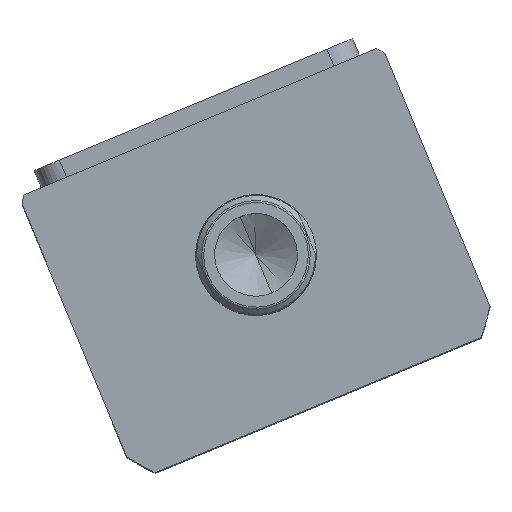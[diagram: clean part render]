
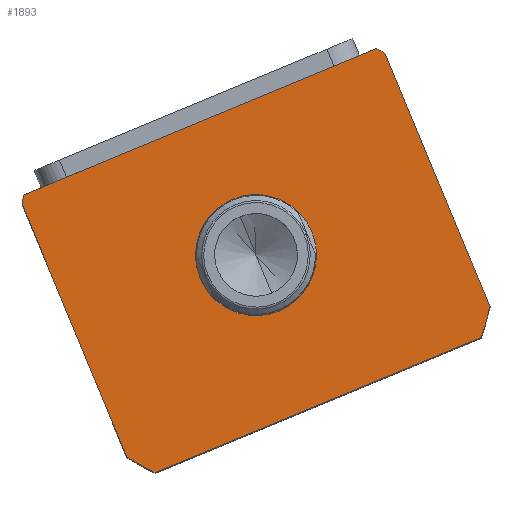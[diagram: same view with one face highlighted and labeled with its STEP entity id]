
A CAD part, top view. The second image highlights one B-rep face of the part: STEP entity #1893.
In plain terms, the highlighted planar face has unit normal (0, 0, 1) as drawn and (0, 0, -1) by its records, which use the part's own axes.
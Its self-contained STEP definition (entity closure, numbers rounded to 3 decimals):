
#499 = VERTEX_POINT ( 'NONE', #7967 ) ;
#603 = DIRECTION ( 'NONE',  ( 1., 0., 0. ) ) ;
#683 = AXIS2_PLACEMENT_3D ( 'NONE', #14336, #17263, #15714 ) ;
#1500 = CARTESIAN_POINT ( 'NONE',  ( 17.5, -59.497, 0. ) ) ;
#1649 = AXIS2_PLACEMENT_3D ( 'NONE', #2562, #2544, #2537 ) ;
#1686 = DIRECTION ( 'NONE',  ( 0., 0., 1. ) ) ;
#1893 = ADVANCED_FACE ( 'NONE', ( #10718, #2923 ), #2868, .F. ) ;
#1951 = EDGE_CURVE ( 'NONE', #8323, #499, #6815, .T. ) ;
#2172 = CARTESIAN_POINT ( 'NONE',  ( -57., -17.497, 0. ) ) ;
#2377 = VECTOR ( 'NONE', #3629, 1000. ) ;
#2537 = DIRECTION ( 'NONE',  ( 1., 0., 0. ) ) ;
#2544 = DIRECTION ( 'NONE',  ( 0., 0., 1. ) ) ;
#2560 = VECTOR ( 'NONE', #9625, 1000. ) ;
#2562 = CARTESIAN_POINT ( 'NONE',  ( 0., 0., 0. ) ) ;
#2822 = ORIENTED_EDGE ( 'NONE', *, *, #7620, .T. ) ;
#2868 = PLANE ( 'NONE',  #1649 ) ;
#2923 = FACE_OUTER_BOUND ( 'NONE', #15902, .T. ) ;
#3629 = DIRECTION ( 'NONE',  ( -1., 0., 0. ) ) ;
#3873 = CIRCLE ( 'NONE', #10742, 69.5 ) ;
#3912 = DIRECTION ( 'NONE',  ( 0., 0., 1. ) ) ;
#3988 = EDGE_CURVE ( 'NONE', #18427, #5149, #10518, .T. ) ;
#4272 = CARTESIAN_POINT ( 'NONE',  ( -17.5, -59.497, 0. ) ) ;
#4432 = LINE ( 'NONE', #15074, #8556 ) ;
#4597 = VERTEX_POINT ( 'NONE', #4272 ) ;
#4624 = ORIENTED_EDGE ( 'NONE', *, *, #17872, .F. ) ;
#5027 = CARTESIAN_POINT ( 'NONE',  ( -55.374, -17.497, 0. ) ) ;
#5052 = ORIENTED_EDGE ( 'NONE', *, *, #1951, .F. ) ;
#5149 = VERTEX_POINT ( 'NONE', #16526 ) ;
#5270 = ORIENTED_EDGE ( 'NONE', *, *, #10160, .F. ) ;
#5404 = CIRCLE ( 'NONE', #15696, 69.5 ) ;
#5702 = VECTOR ( 'NONE', #13511, 1000. ) ;
#6228 = CARTESIAN_POINT ( 'NONE',  ( 55.374, -17.497, 0. ) ) ;
#6685 = CARTESIAN_POINT ( 'NONE',  ( 57., -17.497, 0. ) ) ;
#6815 = CIRCLE ( 'NONE', #683, 69.5 ) ;
#7126 = CARTESIAN_POINT ( 'NONE',  ( 0., -59.497, 0. ) ) ;
#7422 = EDGE_CURVE ( 'NONE', #5149, #11886, #17548, .T. ) ;
#7620 = EDGE_CURVE ( 'NONE', #4597, #7832, #16635, .T. ) ;
#7818 = CARTESIAN_POINT ( 'NONE',  ( -57., -99.262, 0. ) ) ;
#7832 = VERTEX_POINT ( 'NONE', #1500 ) ;
#7967 = CARTESIAN_POINT ( 'NONE',  ( -57., -19.732, 0. ) ) ;
#7986 = VERTEX_POINT ( 'NONE', #9052 ) ;
#8323 = VERTEX_POINT ( 'NONE', #5027 ) ;
#8556 = VECTOR ( 'NONE', #17941, 1000. ) ;
#8596 = DIRECTION ( 'NONE',  ( 1., 0., 0. ) ) ;
#9052 = CARTESIAN_POINT ( 'NONE',  ( -51.198, -106.497, 0. ) ) ;
#9323 = DIRECTION ( 'NONE',  ( 0., 0., 1. ) ) ;
#9395 = DIRECTION ( 'NONE',  ( 0., 0., 1. ) ) ;
#9625 = DIRECTION ( 'NONE',  ( 0., 1., 0. ) ) ;
#10160 = EDGE_CURVE ( 'NONE', #7986, #18427, #16834, .T. ) ;
#10200 = DIRECTION ( 'NONE',  ( 1., 0., 0. ) ) ;
#10315 = VERTEX_POINT ( 'NONE', #6228 ) ;
#10459 = CARTESIAN_POINT ( 'NONE',  ( 0., -59.497, 0. ) ) ;
#10482 = VERTEX_POINT ( 'NONE', #7818 ) ;
#10518 = CIRCLE ( 'NONE', #13026, 69.5 ) ;
#10537 = EDGE_CURVE ( 'NONE', #10482, #7986, #3873, .T. ) ;
#10658 = CARTESIAN_POINT ( 'NONE',  ( 0., -59.497, 0. ) ) ;
#10718 = FACE_BOUND ( 'NONE', #15285, .T. ) ;
#10742 = AXIS2_PLACEMENT_3D ( 'NONE', #17965, #9323, #603 ) ;
#10956 = AXIS2_PLACEMENT_3D ( 'NONE', #12682, #3912, #14132 ) ;
#11044 = ORIENTED_EDGE ( 'NONE', *, *, #7422, .F. ) ;
#11390 = CIRCLE ( 'NONE', #11481, 17.5 ) ;
#11481 = AXIS2_PLACEMENT_3D ( 'NONE', #10459, #1686, #11916 ) ;
#11886 = VERTEX_POINT ( 'NONE', #14538 ) ;
#11916 = DIRECTION ( 'NONE',  ( 1., 0., 0. ) ) ;
#11962 = ORIENTED_EDGE ( 'NONE', *, *, #16751, .F. ) ;
#12046 = CARTESIAN_POINT ( 'NONE',  ( -57., -106.497, 0. ) ) ;
#12682 = CARTESIAN_POINT ( 'NONE',  ( 0., -59.497, 0. ) ) ;
#13026 = AXIS2_PLACEMENT_3D ( 'NONE', #10658, #9395, #10200 ) ;
#13511 = DIRECTION ( 'NONE',  ( 1., 0., 0. ) ) ;
#13559 = EDGE_CURVE ( 'NONE', #11886, #10315, #5404, .T. ) ;
#13825 = EDGE_CURVE ( 'NONE', #7832, #4597, #11390, .T. ) ;
#13983 = ORIENTED_EDGE ( 'NONE', *, *, #3988, .F. ) ;
#14132 = DIRECTION ( 'NONE',  ( 1., 0., 0. ) ) ;
#14336 = CARTESIAN_POINT ( 'NONE',  ( 0., -59.497, 0. ) ) ;
#14538 = CARTESIAN_POINT ( 'NONE',  ( 57., -19.732, 0. ) ) ;
#15074 = CARTESIAN_POINT ( 'NONE',  ( -57., -17.497, 0. ) ) ;
#15285 = EDGE_LOOP ( 'NONE', ( #18472, #2822 ) ) ;
#15549 = ORIENTED_EDGE ( 'NONE', *, *, #13559, .F. ) ;
#15696 = AXIS2_PLACEMENT_3D ( 'NONE', #7126, #17232, #8596 ) ;
#15714 = DIRECTION ( 'NONE',  ( 1., 0., 0. ) ) ;
#15902 = EDGE_LOOP ( 'NONE', ( #15549, #11044, #13983, #5270, #17040, #11962, #5052, #4624 ) ) ;
#16239 = CARTESIAN_POINT ( 'NONE',  ( 51.198, -106.497, 0. ) ) ;
#16526 = CARTESIAN_POINT ( 'NONE',  ( 57., -99.262, 0. ) ) ;
#16635 = CIRCLE ( 'NONE', #10956, 17.5 ) ;
#16751 = EDGE_CURVE ( 'NONE', #499, #10482, #4432, .T. ) ;
#16834 = LINE ( 'NONE', #12046, #5702 ) ;
#17040 = ORIENTED_EDGE ( 'NONE', *, *, #10537, .F. ) ;
#17232 = DIRECTION ( 'NONE',  ( 0., 0., 1. ) ) ;
#17263 = DIRECTION ( 'NONE',  ( 0., 0., 1. ) ) ;
#17548 = LINE ( 'NONE', #6685, #2560 ) ;
#17831 = LINE ( 'NONE', #2172, #2377 ) ;
#17872 = EDGE_CURVE ( 'NONE', #10315, #8323, #17831, .T. ) ;
#17941 = DIRECTION ( 'NONE',  ( 0., -1., 0. ) ) ;
#17965 = CARTESIAN_POINT ( 'NONE',  ( 0., -59.497, 0. ) ) ;
#18427 = VERTEX_POINT ( 'NONE', #16239 ) ;
#18472 = ORIENTED_EDGE ( 'NONE', *, *, #13825, .T. ) ;
